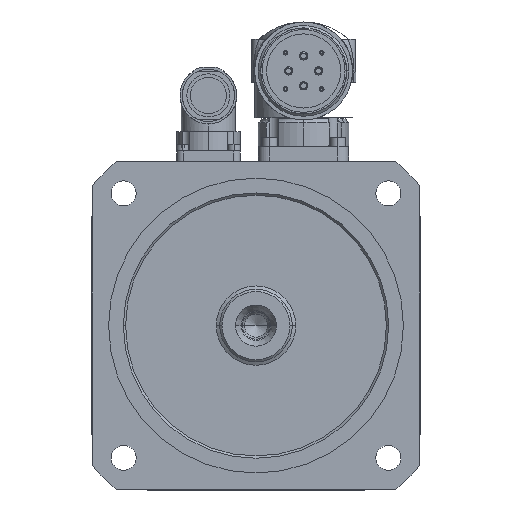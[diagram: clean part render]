
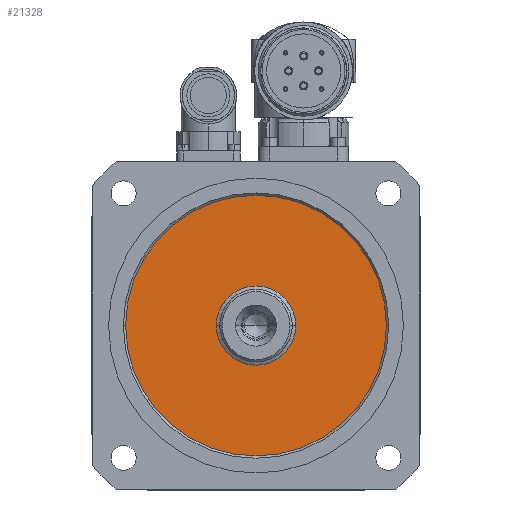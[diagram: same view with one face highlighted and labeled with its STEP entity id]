
A CAD part, left-side view. The second image highlights one B-rep face of the part: STEP entity #21328.
In plain terms, the highlighted planar face has unit normal (-1, 0, 0).
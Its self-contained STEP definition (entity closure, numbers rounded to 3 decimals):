
#7609=CARTESIAN_POINT('',(1.5,0.,0.));
#7610=DIRECTION('',(-1.,0.,0.));
#7611=DIRECTION('',(0.,-1.,0.));
#7612=AXIS2_PLACEMENT_3D('',#7609,#7610,#7611);
#7617=CARTESIAN_POINT('',(1.5,0.,0.));
#7618=DIRECTION('',(-1.,0.,0.));
#7619=DIRECTION('',(0.,1.,0.));
#7620=AXIS2_PLACEMENT_3D('',#7617,#7618,#7619);
#7625=CARTESIAN_POINT('',(1.5,0.,0.));
#7626=DIRECTION('',(1.,0.,0.));
#7627=DIRECTION('',(0.,-1.,0.));
#7628=AXIS2_PLACEMENT_3D('',#7625,#7626,#7627);
#7633=CARTESIAN_POINT('',(1.5,0.,0.));
#7634=DIRECTION('',(1.,0.,0.));
#7635=DIRECTION('',(0.,1.,0.));
#7636=AXIS2_PLACEMENT_3D('',#7633,#7634,#7635);
#11846=CARTESIAN_POINT('',(1.5,57.5,0.));
#11848=VERTEX_POINT('',#11846);
#11902=CARTESIAN_POINT('',(1.5,-57.5,0.));
#11904=VERTEX_POINT('',#11902);
#12316=CARTESIAN_POINT('',(1.5,17.5,0.));
#12317=CARTESIAN_POINT('',(1.5,-17.5,0.));
#12318=VERTEX_POINT('',#12316);
#12319=VERTEX_POINT('',#12317);
#21314=CARTESIAN_POINT('',(1.5,0.,0.));
#21315=DIRECTION('',(-1.,0.,0.));
#21316=DIRECTION('',(0.,-1.,0.));
#21317=AXIS2_PLACEMENT_3D('',#21314,#21315,#21316);
#21318=PLANE('',#21317);
#21319=ORIENTED_EDGE('',*,*,#17138,.F.);
#21320=ORIENTED_EDGE('',*,*,#13632,.F.);
#21321=EDGE_LOOP('',(#21319,#21320));
#21322=FACE_OUTER_BOUND('',#21321,.F.);
#21324=ORIENTED_EDGE('',*,*,#21323,.F.);
#21325=ORIENTED_EDGE('',*,*,#19420,.F.);
#21326=EDGE_LOOP('',(#21324,#21325));
#21327=FACE_BOUND('',#21326,.F.);
#7613=CIRCLE('',#7612,57.5);
#7621=CIRCLE('',#7620,57.5);
#7629=CIRCLE('',#7628,17.5);
#7637=CIRCLE('',#7636,17.5);
#13632=EDGE_CURVE('',#11848,#11904,#7621,.T.);
#17138=EDGE_CURVE('',#11904,#11848,#7613,.T.);
#19420=EDGE_CURVE('',#12318,#12319,#7637,.T.);
#21323=EDGE_CURVE('',#12319,#12318,#7629,.T.);
#21328=ADVANCED_FACE('',(#21322,#21327),#21318,.T.);
